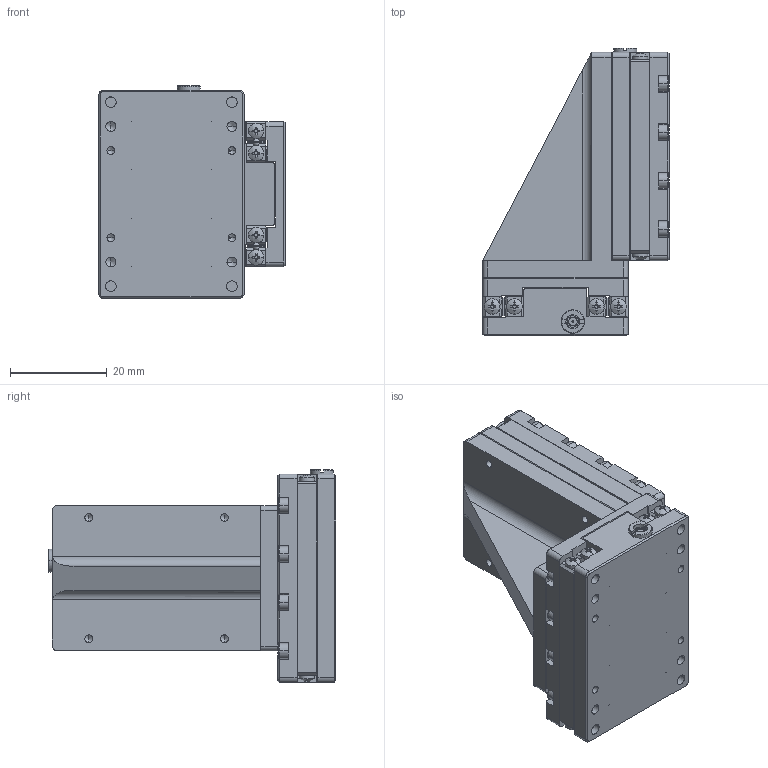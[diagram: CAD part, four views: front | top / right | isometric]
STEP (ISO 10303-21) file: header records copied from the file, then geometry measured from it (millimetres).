
FILE_DESCRIPTION (( 'STEP AP214' ), '1' );
FILE_NAME ('N56.XZ20K-B1开环二维直线压电马达3D图（25.04.29）.STEP', '2025-08-04T05:20:45', ( '微软用户' ), ( '微软中国' ), 'SwSTEP 2.0', 'SolidWorks 2016', '' );
FILE_SCHEMA (( 'AUTOMOTIVE_DESIGN' ));
Length unit declared in the file: millimetre
Products named in the file (1): N56.XZ20K-B1开环二维直线压电马达3D图（25.04.29）
Bounding box: 38.5 x 59.4 x 43.9 mm (x, y, z)
Volume: 32190.2 mm3; surface area: 33166.4 mm2
Topology: 107 solids, 107 shells, 2523 faces, 6329 edges, 4054 vertices
Faces by surface type: plane 1281, cylinder 916, cone 230, bspline 96
Entity records: 77398 total; most frequent: CARTESIAN_POINT 15720, DIRECTION 12818, ORIENTED_EDGE 12310, EDGE_CURVE 6155, AXIS2_PLACEMENT_3D 4698, VERTEX_POINT 4054, VECTOR 3422, LINE 3422
